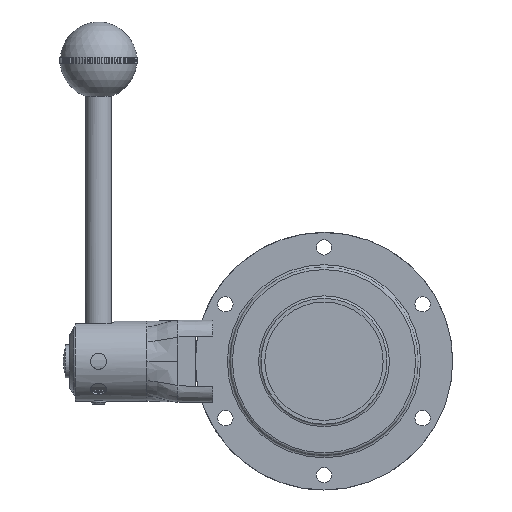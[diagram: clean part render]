
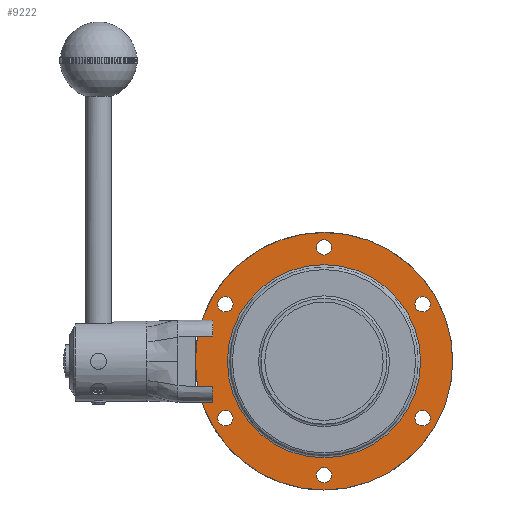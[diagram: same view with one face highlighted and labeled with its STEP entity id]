
A CAD part, left-side view. The second image highlights one B-rep face of the part: STEP entity #9222.
In plain terms, the highlighted planar face has unit normal (-1, 0, 0) as drawn and (1, 0, 0) by its records, which use the part's own axes.
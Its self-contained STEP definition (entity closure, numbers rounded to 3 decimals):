
#1458=FACE_BOUND('',#2610,.T.);
#1459=FACE_BOUND('',#2611,.T.);
#1460=FACE_BOUND('',#2612,.T.);
#1461=FACE_BOUND('',#2613,.T.);
#1462=FACE_BOUND('',#2614,.T.);
#1463=FACE_BOUND('',#2615,.T.);
#1464=FACE_BOUND('',#2616,.T.);
#1985=FACE_OUTER_BOUND('',#2609,.T.);
#2609=EDGE_LOOP('',(#7929));
#2610=EDGE_LOOP('',(#7930));
#2611=EDGE_LOOP('',(#7931));
#2612=EDGE_LOOP('',(#7932));
#2613=EDGE_LOOP('',(#7933));
#2614=EDGE_LOOP('',(#7934));
#2615=EDGE_LOOP('',(#7935));
#2616=EDGE_LOOP('',(#7936));
#3177=CIRCLE('',#10327,52.);
#3191=CIRCLE('',#10348,3.1);
#3192=CIRCLE('',#10350,3.1);
#3193=CIRCLE('',#10352,3.1);
#3194=CIRCLE('',#10354,3.1);
#3195=CIRCLE('',#10356,3.1);
#3196=CIRCLE('',#10358,3.1);
#3197=CIRCLE('',#10360,39.);
#4037=VERTEX_POINT('',#26516);
#4054=VERTEX_POINT('',#26579);
#4055=VERTEX_POINT('',#26583);
#4056=VERTEX_POINT('',#26587);
#4057=VERTEX_POINT('',#26591);
#4058=VERTEX_POINT('',#26595);
#4059=VERTEX_POINT('',#26599);
#4060=VERTEX_POINT('',#26603);
#5321=EDGE_CURVE('',#4037,#4037,#3177,.T.);
#5343=EDGE_CURVE('',#4054,#4054,#3191,.T.);
#5345=EDGE_CURVE('',#4055,#4055,#3192,.T.);
#5347=EDGE_CURVE('',#4056,#4056,#3193,.T.);
#5349=EDGE_CURVE('',#4057,#4057,#3194,.T.);
#5351=EDGE_CURVE('',#4058,#4058,#3195,.T.);
#5353=EDGE_CURVE('',#4059,#4059,#3196,.T.);
#5354=EDGE_CURVE('',#4060,#4060,#3197,.T.);
#7929=ORIENTED_EDGE('',*,*,#5321,.T.);
#7930=ORIENTED_EDGE('',*,*,#5343,.T.);
#7931=ORIENTED_EDGE('',*,*,#5345,.T.);
#7932=ORIENTED_EDGE('',*,*,#5347,.T.);
#7933=ORIENTED_EDGE('',*,*,#5349,.T.);
#7934=ORIENTED_EDGE('',*,*,#5351,.T.);
#7935=ORIENTED_EDGE('',*,*,#5353,.T.);
#7936=ORIENTED_EDGE('',*,*,#5354,.F.);
#8320=PLANE('',#10359);
#9222=ADVANCED_FACE('',(#1985,#1458,#1459,#1460,#1461,#1462,#1463,#1464),
#8320,.T.);
#10327=AXIS2_PLACEMENT_3D('',#26517,#12846,#12847);
#10348=AXIS2_PLACEMENT_3D('',#26581,#12894,#12895);
#10350=AXIS2_PLACEMENT_3D('',#26585,#12899,#12900);
#10352=AXIS2_PLACEMENT_3D('',#26589,#12904,#12905);
#10354=AXIS2_PLACEMENT_3D('',#26593,#12909,#12910);
#10356=AXIS2_PLACEMENT_3D('',#26597,#12914,#12915);
#10358=AXIS2_PLACEMENT_3D('',#26601,#12919,#12920);
#10359=AXIS2_PLACEMENT_3D('',#26602,#12921,#12922);
#10360=AXIS2_PLACEMENT_3D('',#26604,#12923,#12924);
#12846=DIRECTION('center_axis',(1.,0.,0.));
#12847=DIRECTION('ref_axis',(0.,0.,-1.));
#12894=DIRECTION('center_axis',(-1.,0.,0.));
#12895=DIRECTION('ref_axis',(0.,0.,1.));
#12899=DIRECTION('center_axis',(-1.,0.,0.));
#12900=DIRECTION('ref_axis',(0.,0.,1.));
#12904=DIRECTION('center_axis',(-1.,0.,0.));
#12905=DIRECTION('ref_axis',(0.,0.,1.));
#12909=DIRECTION('center_axis',(-1.,0.,0.));
#12910=DIRECTION('ref_axis',(0.,0.,1.));
#12914=DIRECTION('center_axis',(-1.,0.,0.));
#12915=DIRECTION('ref_axis',(0.,0.,1.));
#12919=DIRECTION('center_axis',(-1.,0.,0.));
#12920=DIRECTION('ref_axis',(0.,0.,1.));
#12921=DIRECTION('center_axis',(1.,0.,0.));
#12922=DIRECTION('ref_axis',(0.,0.,-1.));
#12923=DIRECTION('center_axis',(1.,0.,0.));
#12924=DIRECTION('ref_axis',(0.,0.,-1.));
#26516=CARTESIAN_POINT('',(10.,-52.,0.));
#26517=CARTESIAN_POINT('Origin',(10.,0.,0.));
#26579=CARTESIAN_POINT('',(10.,-39.837,19.9));
#26581=CARTESIAN_POINT('Origin',(10.,-39.837,23.));
#26583=CARTESIAN_POINT('',(10.,0.,-49.1));
#26585=CARTESIAN_POINT('Origin',(10.,0.,-46.));
#26587=CARTESIAN_POINT('',(10.,0.,42.9));
#26589=CARTESIAN_POINT('Origin',(10.,0.,46.));
#26591=CARTESIAN_POINT('',(10.,39.837,-26.1));
#26593=CARTESIAN_POINT('Origin',(10.,39.837,-23.));
#26595=CARTESIAN_POINT('',(10.,-39.837,-26.1));
#26597=CARTESIAN_POINT('Origin',(10.,-39.837,-23.));
#26599=CARTESIAN_POINT('',(10.,39.837,19.9));
#26601=CARTESIAN_POINT('Origin',(10.,39.837,23.));
#26602=CARTESIAN_POINT('Origin',(10.,39.,0.));
#26603=CARTESIAN_POINT('',(10.,0.,39.));
#26604=CARTESIAN_POINT('Origin',(10.,0.,0.));
